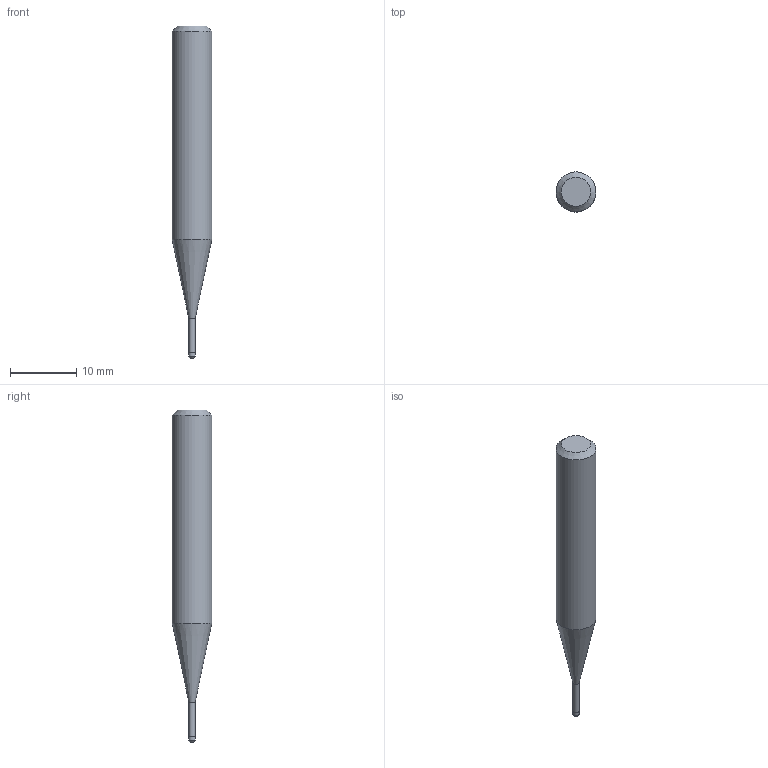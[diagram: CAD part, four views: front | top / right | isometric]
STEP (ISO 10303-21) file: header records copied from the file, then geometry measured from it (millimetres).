
FILE_DESCRIPTION((''),'2;1');
FILE_NAME('C:\Users\nsx150\AppData\Local\Temp\Mastercam 2021\17T8Q8S9EB\TEMP.step','2021-04-21T14:34:25',(''),(''),'STEP Write','Mastercam 2021 ... CNC Software, Inc.','');
FILE_SCHEMA(('AUTOMOTIVE_DESIGN'));
Length unit declared in the file: millimetre
Products named in the file (1): None
Bounding box: 6 x 6 x 50 mm (x, y, z)
Volume: 1039.5 mm3; surface area: 776.5 mm2
Topology: 2 solids, 2 shells, 10 faces, 14 edges, 8 vertices
Faces by surface type: plane 4, cylinder 3, cone 2, torus 1
Full cylindrical faces by diameter (mm): 0.95 x1, 1 x1, 6 x1
Entity records: 232 total; most frequent: DIRECTION 40, CARTESIAN_POINT 28, AXIS2_PLACEMENT_3D 20, ORIENTED_EDGE 16, EDGE_LOOP 16, STYLED_ITEM 13, ADVANCED_FACE 10, FACE_BOUND 10
